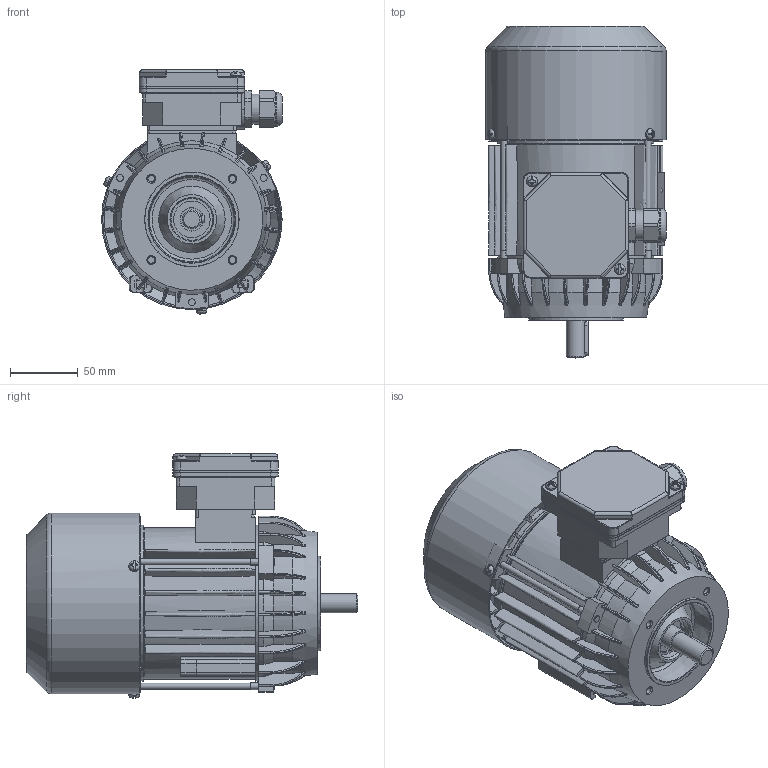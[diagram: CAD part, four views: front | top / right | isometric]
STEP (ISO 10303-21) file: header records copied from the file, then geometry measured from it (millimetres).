
FILE_DESCRIPTION(/* description */ ('Unknown'),/* implementation_level */ '2;1');
FILE_NAME(/* name */ '2SIEK71-8B2',/* time_stamp */ '2021-04-13T15:21:28+02:00',/* author */ ('Unknown'),/* organization */ ('Unknown'),/* preprocessor_version */ 'ST-DEVELOPER v16.7',/* originating_system */ 'Solid Edge',/* authorisation */ 'Unknown');
FILE_SCHEMA (('TECHNICAL_DATA_PACKAGING','AUTOMOTIVE_DESIGN {1 0 10303 214 3 1 1}'));
Products named in the file (1): 2SIEK71-8B2
Bounding box: 133.79 x 245.47 x 180.56 mm (x, y, z)
Volume: 592413.6 mm3; surface area: 392876.4 mm2
Topology: 1 solids, 1 shells, 2443 faces, 6912 edges, 4464 vertices
Faces by surface type: plane 957, cylinder 703, bspline 372, torus 222, cone 165, sphere 24
Full cylindrical faces by diameter (mm): 2 x2, 2.4 x2, 3.7 x4, 3.8 x4, 4 x2, 4.6 x3, 4.8 x2, 4.917 x4, 5 x8, 5.499 x3, 6.999 x1, 7.999 x9, 13.999 x1, 15.898 x1, 16.098 x1, 16.498 x1, 16.998 x2, 17.398 x2, 21.998 x2, 22.298 x1, 22.498 x1, 22.998 x1, 23.098 x1, 24.496 x4, 24.997 x1, 26.997 x1, 27.997 x1, 30.997 x1, 32.499 x4, 35.996 x2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
Entity records: 106248 total; most frequent: CARTESIAN_POINT 30310, ORIENTED_EDGE 13128, DIRECTION 11123, EDGE_CURVE 6564, VERTEX_POINT 4341, AXIS2_PLACEMENT_3D 4241, FACE_BOUND 2843, EDGE_LOOP 2839
